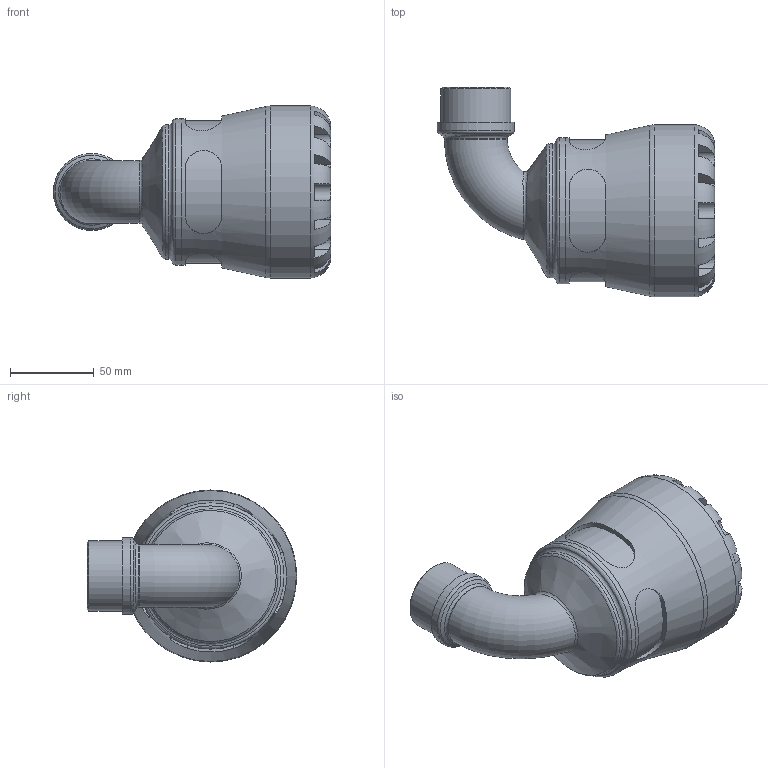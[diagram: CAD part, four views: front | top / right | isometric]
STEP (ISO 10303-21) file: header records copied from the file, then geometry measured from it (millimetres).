
FILE_DESCRIPTION(/* description */ ('PLASSON 90° ELBOW WITH MALE INTEGRAL BRASS 63X1.1/4" SERIES 1'),/* implementation_level */ '2;1');
FILE_NAME(/* name */ 'C:\Dropbox\KIMPROJECTS-Inventor\99-16-3568-Processing\S1\1077\107700063013_197700063013.ipt.stp',/* time_stamp */ '2018-05-13T11:03:45+03:00',/* author */ ('KIM'),/* organization */ (''),/* preprocessor_version */ 'ST-DEVELOPER v15.6',/* originating_system */ 'Autodesk Inventor 2015',/* authorisation */ '');
FILE_SCHEMA (('AUTOMOTIVE_DESIGN { 1 0 10303 214 3 1 1 }'));
Length unit declared in the file: millimetre
Products named in the file (1): 107700063013_197700063013
Bounding box: 166.05 x 125.5 x 103 mm (x, y, z)
Volume: 486205.7 mm3; surface area: 84561.9 mm2
Topology: 1 solids, 1 shells, 112 faces, 275 edges, 170 vertices
Faces by surface type: plane 60, cylinder 37, torus 9, cone 3, bspline 3
Full cylindrical faces by diameter (mm): 29.337 x2, 37.719 x1, 41.91 x1, 46.101 x1, 63 x1, 80.34 x1, 87.55 x1, 103 x1
Entity records: 4432 total; most frequent: CARTESIAN_POINT 1842, DIRECTION 495, ORIENTED_EDGE 492, EDGE_CURVE 246, AXIS2_PLACEMENT_3D 207, VERTEX_POINT 163, EDGE_LOOP 141, STYLED_ITEM 113
